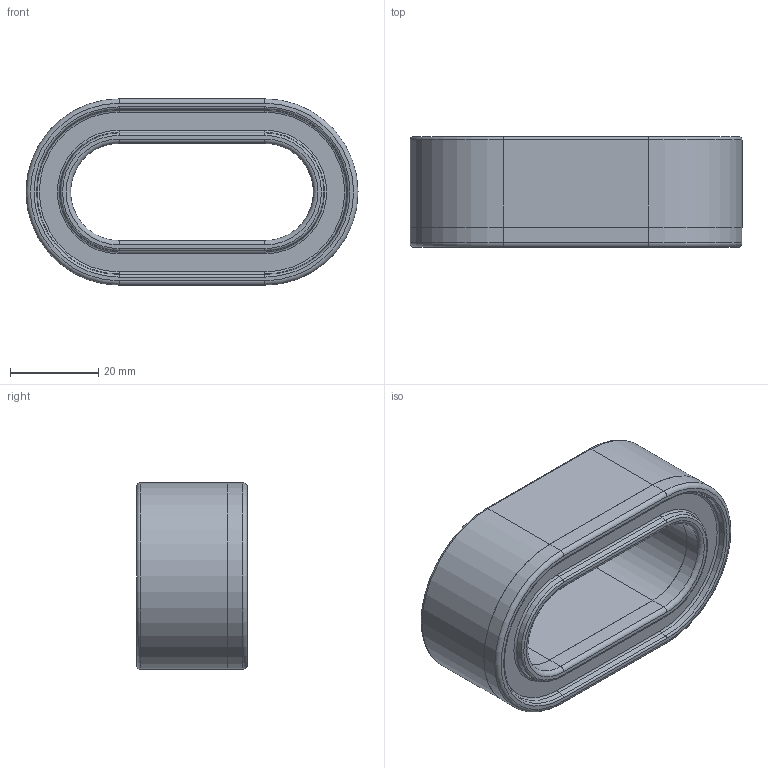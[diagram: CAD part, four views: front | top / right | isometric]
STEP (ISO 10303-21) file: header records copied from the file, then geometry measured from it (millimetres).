
FILE_DESCRIPTION(/* description */ (''),/* implementation_level */ '2;1');
FILE_NAME(/* name */ 'G:\KB-FTKon\CAD\Inventor\Kundenmodelle\Kerne\V280-V380\W60000-K0057-C040+C041_Shrinkwrap_1.stp',/* time_stamp */ '2020-01-13T10:18:10+01:00',/* author */ ('de881284'),/* organization */ (''),/* preprocessor_version */ 'ST-DEVELOPER v18',/* originating_system */ 'Autodesk Inventor 2020',/* authorisation */ '');
FILE_SCHEMA (('AUTOMOTIVE_DESIGN { 1 0 10303 214 3 1 1 }'));
Length unit declared in the file: millimetre
Products named in the file (1): W60000-K0057-C040+C041_Shrinkwrap_1
Bounding box: 75.2 x 25.05 x 42.2 mm (x, y, z)
Volume: 40316.5 mm3; surface area: 12489.4 mm2
Topology: 1 solids, 1 shells, 80 faces, 176 edges, 104 vertices
Faces by surface type: cylinder 28, plane 28, torus 16, cone 8
Entity records: 2327 total; most frequent: DIRECTION 422, CARTESIAN_POINT 361, ORIENTED_EDGE 352, EDGE_CURVE 176, AXIS2_PLACEMENT_3D 165, VERTEX_POINT 104, LINE 92, VECTOR 92
